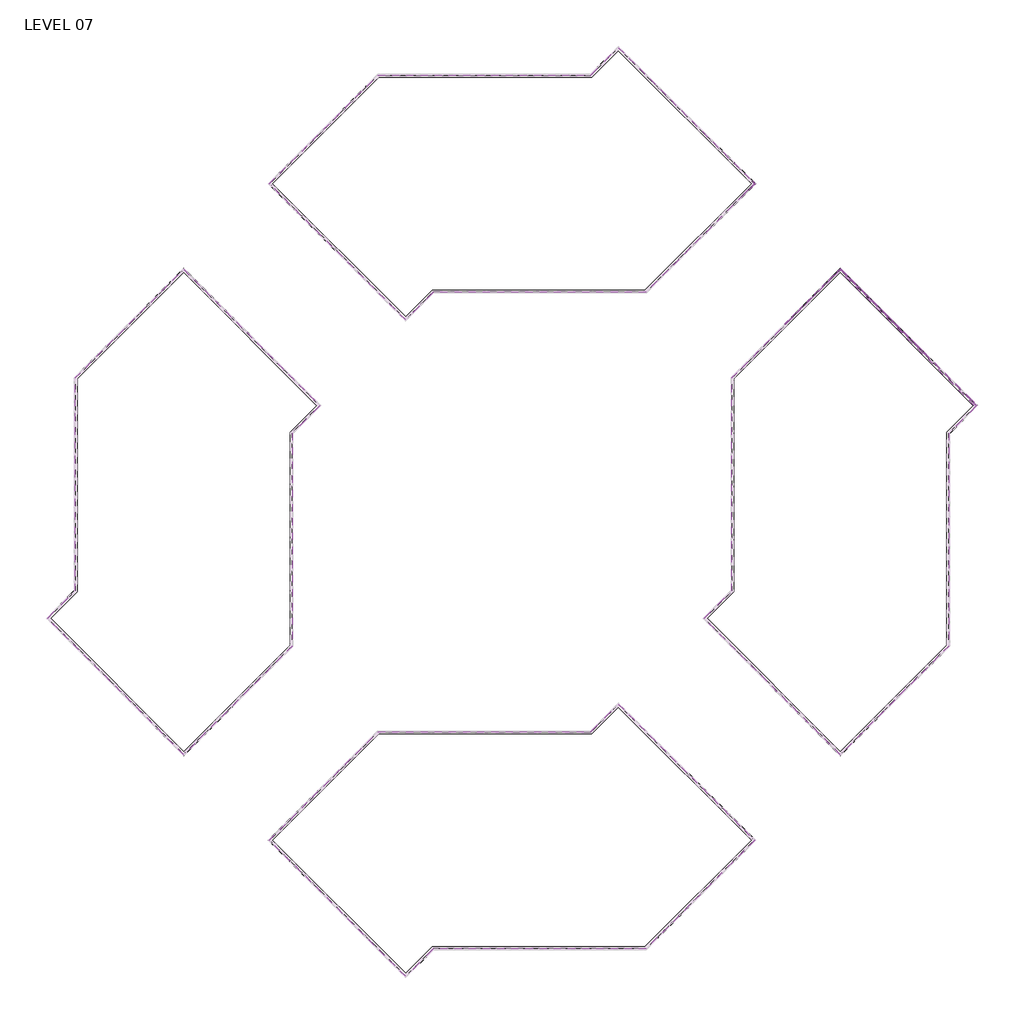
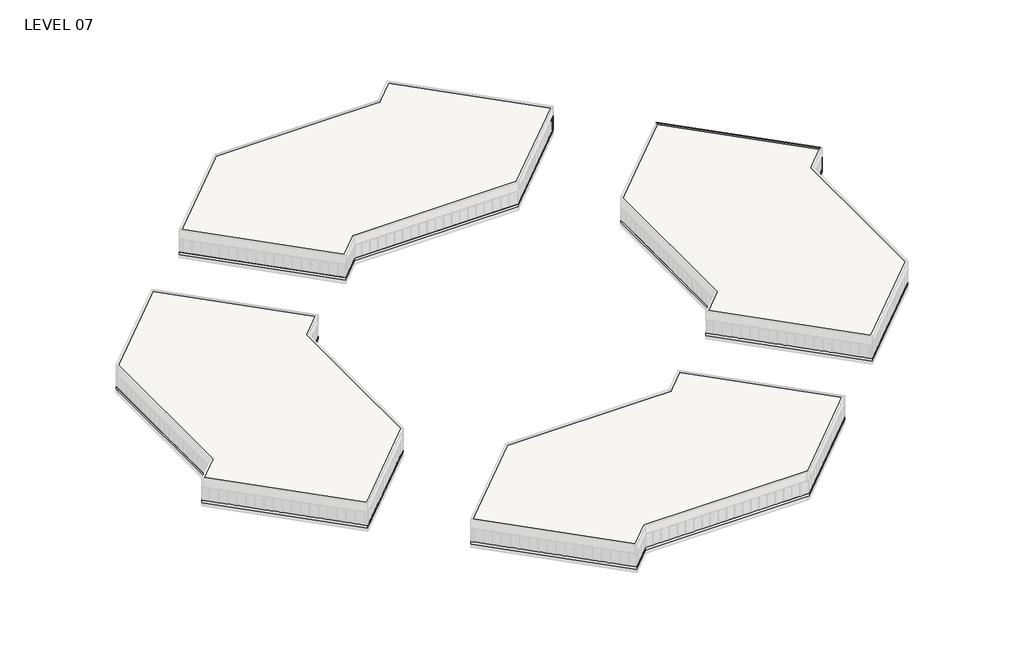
# One storey, part 18 of 18: 75 members, 21 plates, 8 slabs, 2 walls.
"""IFC4 building model written with IfcOpenShell, lengths in millimetres."""

from ifc_helpers import new_model, si_unit, frame, origin, place, context, project, spatial, polyline, outline, extrude, faceted_brep, transform, mapped, element, save
from components import member_5247f267, member_e44af9ab, member_800970d4, member_25b26a38, member_c23f844a, member_53409b32, member_ed9c17d6, member_0b71a88d, plate_6d527a83, plate_67294edd, plate_aaac5d3d, plate_50b9cd61, plate_048e4634, plate_e0fd5134, plate_62af1d3c, plate_dca6a18a

model = new_model("IFC4")

# Units and contexts
model_context = context("Model", 3, world=origin())
ifc_project = project(units=[si_unit("LENGTHUNIT", "METRE", prefix="MILLI")], contexts=[model_context])

# Site, building, storey
site = spatial("IfcSite", under=ifc_project)
building = spatial("IfcBuilding", under=site)
storey = spatial("IfcBuildingStorey", under=building, Name="LEVEL 07", Elevation=23368.0)

# Members
placement = place(None, origin())
member_shape = member_5247f267(model_context)
element("IfcMember", 1, ObjectType="Rectangular Mullion : 2\" x 4.5\" rectangular", at=placement, inside=storey, context=model_context, shape_type="MappedRepresentation", body=[
    mapped(member_shape, transform((64227.3404937, 104942.2679469, 23368.0), x_axis=(0.0, 0.0, -1.0), y_axis=(0.7071067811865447, 0.7071067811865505, 0.0), z_axis=(0.7071067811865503, -0.7071067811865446, 0.0))),
])
element("IfcMember", 2, ObjectType="Rectangular Mullion : 2\" x 4.5\" rectangular", at=placement, inside=storey, context=model_context, shape_type="MappedRepresentation", body=[
    mapped(member_shape, transform((64227.3404937, 104141.486663, 25958.8), x_axis=(0.0, 0.0, 1.0), y_axis=(0.7071067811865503, -0.7071067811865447, 0.0), z_axis=(0.7071067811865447, 0.7071067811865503, 0.0))),
])
member_2_shape = member_e44af9ab(model_context)
element("IfcMember", 3, ObjectType="Rectangular Mullion : 2\" x 4.5\" rectangular", at=placement, inside=storey, context=model_context, shape_type="MappedRepresentation", body=[
    mapped(member_2_shape, transform((64245.3010059, 104159.4471752, 23368.0), x_axis=(0.7071067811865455, 0.7071067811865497, 0.0), y_axis=(0.7071067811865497, -0.7071067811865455, 0.0), z_axis=(0.0, 0.0, -1.0))),
])
element("IfcMember", 4, ObjectType="Rectangular Mullion : 2\" x 4.5\" rectangular", at=placement, inside=storey, context=model_context, shape_type="MappedRepresentation", body=[
    mapped(member_2_shape, transform((64245.3010059, 104924.3074346, 23368.0), x_axis=(-0.7071067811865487, 0.7071067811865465, 0.0), y_axis=(0.7071067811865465, 0.7071067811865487, 0.0), z_axis=(0.0, 0.0, -1.0))),
])
member_3_shape = member_800970d4(model_context)
element("IfcMember", 5, ObjectType="Rectangular Mullion : 2\" x 4.5\" rectangular", at=placement, inside=storey, context=model_context, shape_type="MappedRepresentation", body=[
    mapped(member_3_shape, transform((64627.7311356, 104541.8773049, 23368.0), x_axis=(0.7071067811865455, 0.7071067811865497, 0.0), y_axis=(0.7071067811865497, -0.7071067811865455, 0.0), z_axis=(0.0, 0.0, -1.0))),
])
element("IfcMember", 6, ObjectType="Rectangular Mullion : 2\" x 4.5\" rectangular", at=placement, inside=storey, context=model_context, shape_type="MappedRepresentation", body=[
    mapped(member_3_shape, transform((64627.7311356, 104541.8773049, 25958.8), x_axis=(0.7071067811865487, -0.7071067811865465, 0.0), y_axis=(0.7071067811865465, 0.7071067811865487, 0.0), z_axis=(0.0, 0.0, 1.0))),
])
member_4_shape = member_25b26a38(model_context)
element("IfcMember", 7, ObjectType="Rectangular Mullion : 2\" x 4.5\" rectangular", at=placement, inside=storey, context=model_context, shape_type="MappedRepresentation", body=[
    mapped(member_4_shape, transform((64263.2615182, 104177.4076875, 23368.0), x_axis=(0.0, 0.0, -1.0), y_axis=(0.7071067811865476, -0.7071067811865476, 0.0), z_axis=(-0.7071067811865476, -0.7071067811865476, 0.0))),
])
element("IfcMember", 8, ObjectType="Rectangular Mullion : 2\" x 4.5\" rectangular", at=placement, inside=storey, context=model_context, shape_type="MappedRepresentation", body=[
    mapped(member_4_shape, transform((64591.8101111, 104577.7983294, 23368.0), x_axis=(0.0, 0.0, -1.0), y_axis=(0.7071067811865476, 0.7071067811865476, 0.0), z_axis=(0.7071067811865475, -0.7071067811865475, 0.0))),
])
element("IfcMember", 9, ObjectType="Rectangular Mullion : 2\" x 4.5\" rectangular", at=placement, inside=storey, context=model_context, shape_type="MappedRepresentation", body=[
    mapped(member_4_shape, transform((64591.8101111, 104505.9562804, 25958.8), x_axis=(0.0, 0.0, 1.0), y_axis=(0.7071067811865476, -0.7071067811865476, 0.0), z_axis=(0.7071067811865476, 0.7071067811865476, 0.0))),
])
element("IfcMember", 10, ObjectType="Rectangular Mullion : 2\" x 4.5\" rectangular", at=placement, inside=storey, context=model_context, shape_type="MappedRepresentation", body=[
    mapped(member_4_shape, transform((64263.2615182, 104906.3469224, 25958.8), x_axis=(0.0, 0.0, 1.0), y_axis=(0.7071067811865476, 0.7071067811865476, 0.0), z_axis=(-0.7071067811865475, 0.7071067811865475, 0.0))),
])
element("IfcMember", 11, ObjectType="Rectangular Mullion : 2\" x 4.5\" rectangular", at=placement, inside=storey, context=model_context, shape_type="MappedRepresentation", body=[
    mapped(member_shape, transform((69983.7142707, 85453.6032785, 25958.8), x_axis=(0.0, 0.0, 1.0), y_axis=(0.7071067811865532, -0.7071067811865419, 0.0), z_axis=(0.7071067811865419, 0.7071067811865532, 0.0))),
])
element("IfcMember", 12, ObjectType="Rectangular Mullion : 2\" x 4.5\" rectangular", at=placement, inside=storey, context=model_context, shape_type="MappedRepresentation", body=[
    mapped(member_shape, transform((71061.3302035, 86531.2192113, 25958.8), x_axis=(0.0, 0.0, 1.0), y_axis=(0.7071067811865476, -0.7071067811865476, 0.0), z_axis=(0.7071067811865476, 0.7071067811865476, 0.0))),
])
element("IfcMember", 13, ObjectType="Rectangular Mullion : 2\" x 4.5\" rectangular", at=placement, inside=storey, context=model_context, shape_type="MappedRepresentation", body=[
    mapped(member_shape, transform((73216.5768709, 88686.4658786, 25958.8), x_axis=(0.0, 0.0, 1.0), y_axis=(0.7071067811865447, -0.7071067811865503, 0.0), z_axis=(0.7071067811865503, 0.7071067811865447, 0.0))),
])
element("IfcMember", 14, ObjectType="Rectangular Mullion : 2\" x 4.5\" rectangular", at=placement, inside=storey, context=model_context, shape_type="MappedRepresentation", body=[
    mapped(member_shape, transform((72138.9535372, 87608.842545, 25958.8), x_axis=(0.0, 0.0, 1.0), y_axis=(0.7071067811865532, -0.7071067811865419, 0.0), z_axis=(0.7071067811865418, 0.7071067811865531, 0.0))),
])
element("IfcMember", 15, ObjectType="Rectangular Mullion : 2\" x 4.5\" rectangular", at=placement, inside=storey, context=model_context, shape_type="MappedRepresentation", body=[
    mapped(member_shape, transform((74294.2076054, 89764.0966131, 25958.8), x_axis=(0.0, 0.0, 1.0), y_axis=(0.7071067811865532, -0.7071067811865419, 0.0), z_axis=(0.7071067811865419, 0.7071067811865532, 0.0))),
])
element("IfcMember", 16, ObjectType="Rectangular Mullion : 2\" x 4.5\" rectangular", at=placement, inside=storey, context=model_context, shape_type="MappedRepresentation", body=[
    mapped(member_shape, transform((75371.8383399, 90841.7273477, 25958.8), x_axis=(0.0, 0.0, 1.0), y_axis=(0.7071067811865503, -0.7071067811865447, 0.0), z_axis=(0.7071067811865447, 0.7071067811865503, 0.0))),
])
element("IfcMember", 17, ObjectType="Rectangular Mullion : 2\" x 4.5\" rectangular", at=placement, inside=storey, context=model_context, shape_type="MappedRepresentation", body=[
    mapped(member_shape, transform((76449.4690745, 91919.3580822, 25958.8), x_axis=(0.0, 0.0, 1.0), y_axis=(0.7071067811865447, -0.7071067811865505, 0.0), z_axis=(0.7071067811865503, 0.7071067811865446, 0.0))),
])
element("IfcMember", 18, ObjectType="Rectangular Mullion : 2\" x 4.5\" rectangular", at=placement, inside=storey, context=model_context, shape_type="MappedRepresentation", body=[
    mapped(member_shape, transform((79369.5908029, 89800.0176376, 25958.8), x_axis=(0.0, 0.0, 1.0), y_axis=(-0.7071067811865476, -0.7071067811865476, 0.0), z_axis=(0.7071067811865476, -0.7071067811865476, 0.0))),
])
element("IfcMember", 19, ObjectType="Rectangular Mullion : 2\" x 4.5\" rectangular", at=placement, inside=storey, context=model_context, shape_type="MappedRepresentation", body=[
    mapped(member_shape, transform((80447.2215374, 88722.3869031, 25958.8), x_axis=(0.0, 0.0, 1.0), y_axis=(-0.7071067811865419, -0.7071067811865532, 0.0), z_axis=(0.7071067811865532, -0.7071067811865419, 0.0))),
])
element("IfcMember", 20, ObjectType="Rectangular Mullion : 2\" x 4.5\" rectangular", at=placement, inside=storey, context=model_context, shape_type="MappedRepresentation", body=[
    mapped(member_shape, transform((82602.447272, 86567.1611686, 25958.8), x_axis=(0.0, 0.0, 1.0), y_axis=(-0.7071067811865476, -0.7071067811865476, 0.0), z_axis=(0.7071067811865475, -0.7071067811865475, 0.0))),
])
element("IfcMember", 21, ObjectType="Rectangular Mullion : 2\" x 4.5\" rectangular", at=placement, inside=storey, context=model_context, shape_type="MappedRepresentation", body=[
    mapped(member_shape, transform((83680.042272, 85489.5661686, 25958.8), x_axis=(0.0, 0.0, 1.0), y_axis=(-0.7071067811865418, -0.7071067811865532, 0.0), z_axis=(0.7071067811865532, -0.7071067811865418, 0.0))),
])
element("IfcMember", 22, ObjectType="Rectangular Mullion : 2\" x 4.5\" rectangular", at=placement, inside=storey, context=model_context, shape_type="MappedRepresentation", body=[
    mapped(member_shape, transform((84757.637272, 84411.9711686, 25958.8), x_axis=(0.0, 0.0, 1.0), y_axis=(-0.7071067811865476, -0.7071067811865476, 0.0), z_axis=(0.7071067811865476, -0.7071067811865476, 0.0))),
])
element("IfcMember", 23, ObjectType="Rectangular Mullion : 2\" x 4.5\" rectangular", at=placement, inside=storey, context=model_context, shape_type="MappedRepresentation", body=[
    mapped(member_shape, transform((85835.232272, 83334.3761686, 25958.8), x_axis=(0.0, 0.0, 1.0), y_axis=(-0.7071067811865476, -0.7071067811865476, 0.0), z_axis=(0.7071067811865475, -0.7071067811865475, 0.0))),
])
element("IfcMember", 24, ObjectType="Rectangular Mullion : 2\" x 4.5\" rectangular", at=placement, inside=storey, context=model_context, shape_type="MappedRepresentation", body=[
    mapped(member_shape, transform((78291.9600684, 90877.6483722, 25958.8), x_axis=(0.0, 0.0, 1.0), y_axis=(-0.7071067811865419, -0.7071067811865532, 0.0), z_axis=(0.7071067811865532, -0.7071067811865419, 0.0))),
])
element("IfcMember", 25, ObjectType="Rectangular Mullion : 2\" x 4.5\" rectangular", at=placement, inside=storey, context=model_context, shape_type="MappedRepresentation", body=[
    mapped(member_shape, transform((81524.8344047, 87644.7740358, 25958.8), x_axis=(0.0, 0.0, 1.0), y_axis=(-0.7071067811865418, -0.7071067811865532, 0.0), z_axis=(0.7071067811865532, -0.7071067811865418, 0.0))),
])
element("IfcMember", 26, ObjectType="Rectangular Mullion : 2\" x 4.5\" rectangular", at=placement, inside=storey, context=model_context, shape_type="MappedRepresentation", body=[
    mapped(member_shape, transform((70019.6352952, 85489.524303, 23368.0), x_axis=(0.0, 0.0, -1.0), y_axis=(0.7071067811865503, -0.7071067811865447, 0.0), z_axis=(-0.7071067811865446, -0.7071067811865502, 0.0))),
])
element("IfcMember", 27, ObjectType="Rectangular Mullion : 2\" x 4.5\" rectangular", at=placement, inside=storey, context=model_context, shape_type="MappedRepresentation", body=[
    mapped(member_shape, transform((71097.251228, 86567.1402358, 23368.0), x_axis=(0.0, 0.0, -1.0), y_axis=(0.7071067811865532, -0.7071067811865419, 0.0), z_axis=(-0.7071067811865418, -0.7071067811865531, 0.0))),
])
element("IfcMember", 28, ObjectType="Rectangular Mullion : 2\" x 4.5\" rectangular", at=placement, inside=storey, context=model_context, shape_type="MappedRepresentation", body=[
    mapped(member_shape, transform((73252.4978954, 88722.3869031, 23368.0), x_axis=(0.0, 0.0, -1.0), y_axis=(0.7071067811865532, -0.7071067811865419, 0.0), z_axis=(-0.7071067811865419, -0.7071067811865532, 0.0))),
])
element("IfcMember", 29, ObjectType="Rectangular Mullion : 2\" x 4.5\" rectangular", at=placement, inside=storey, context=model_context, shape_type="MappedRepresentation", body=[
    mapped(member_shape, transform((72174.8745617, 87644.7635694, 23368.0), x_axis=(0.0, 0.0, -1.0), y_axis=(0.7071067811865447, -0.7071067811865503, 0.0), z_axis=(-0.7071067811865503, -0.7071067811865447, 0.0))),
])
element("IfcMember", 30, ObjectType="Rectangular Mullion : 2\" x 4.5\" rectangular", at=placement, inside=storey, context=model_context, shape_type="MappedRepresentation", body=[
    mapped(member_shape, transform((74330.1286299, 89800.0176376, 23368.0), x_axis=(0.0, 0.0, -1.0), y_axis=(0.7071067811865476, -0.7071067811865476, 0.0), z_axis=(-0.7071067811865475, -0.7071067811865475, 0.0))),
])
element("IfcMember", 31, ObjectType="Rectangular Mullion : 2\" x 4.5\" rectangular", at=placement, inside=storey, context=model_context, shape_type="MappedRepresentation", body=[
    mapped(member_shape, transform((75407.7593644, 90877.6483722, 23368.0), x_axis=(0.0, 0.0, -1.0), y_axis=(0.7071067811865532, -0.7071067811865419, 0.0), z_axis=(-0.7071067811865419, -0.7071067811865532, 0.0))),
])
element("IfcMember", 32, ObjectType="Rectangular Mullion : 2\" x 4.5\" rectangular", at=placement, inside=storey, context=model_context, shape_type="MappedRepresentation", body=[
    mapped(member_shape, transform((79405.5118274, 89764.0966131, 23368.0), x_axis=(0.0, 0.0, -1.0), y_axis=(-0.7071067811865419, -0.7071067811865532, 0.0), z_axis=(-0.7071067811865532, 0.7071067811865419, 0.0))),
])
element("IfcMember", 33, ObjectType="Rectangular Mullion : 2\" x 4.5\" rectangular", at=placement, inside=storey, context=model_context, shape_type="MappedRepresentation", body=[
    mapped(member_shape, transform((80483.1425619, 88686.4658786, 23368.0), x_axis=(0.0, 0.0, -1.0), y_axis=(-0.7071067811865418, -0.7071067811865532, 0.0), z_axis=(-0.7071067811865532, 0.7071067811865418, 0.0))),
])
element("IfcMember", 34, ObjectType="Rectangular Mullion : 2\" x 4.5\" rectangular", at=placement, inside=storey, context=model_context, shape_type="MappedRepresentation", body=[
    mapped(member_shape, transform((82638.3682965, 86531.2401441, 23368.0), x_axis=(0.0, 0.0, -1.0), y_axis=(-0.7071067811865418, -0.7071067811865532, 0.0), z_axis=(-0.7071067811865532, 0.7071067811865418, 0.0))),
])
element("IfcMember", 35, ObjectType="Rectangular Mullion : 2\" x 4.5\" rectangular", at=placement, inside=storey, context=model_context, shape_type="MappedRepresentation", body=[
    mapped(member_shape, transform((83715.9632965, 85453.6451441, 23368.0), x_axis=(0.0, 0.0, -1.0), y_axis=(-0.7071067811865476, -0.7071067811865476, 0.0), z_axis=(-0.7071067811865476, 0.7071067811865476, 0.0))),
])
element("IfcMember", 36, ObjectType="Rectangular Mullion : 2\" x 4.5\" rectangular", at=placement, inside=storey, context=model_context, shape_type="MappedRepresentation", body=[
    mapped(member_shape, transform((84793.5582965, 84376.0501441, 23368.0), x_axis=(0.0, 0.0, -1.0), y_axis=(-0.7071067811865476, -0.7071067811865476, 0.0), z_axis=(-0.7071067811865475, 0.7071067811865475, 0.0))),
])
element("IfcMember", 37, ObjectType="Rectangular Mullion : 2\" x 4.5\" rectangular", at=placement, inside=storey, context=model_context, shape_type="MappedRepresentation", body=[
    mapped(member_shape, transform((78327.8810929, 90841.7273477, 23368.0), x_axis=(0.0, 0.0, -1.0), y_axis=(-0.7071067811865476, -0.7071067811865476, 0.0), z_axis=(-0.7071067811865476, 0.7071067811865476, 0.0))),
])
element("IfcMember", 38, ObjectType="Rectangular Mullion : 2\" x 4.5\" rectangular", at=placement, inside=storey, context=model_context, shape_type="MappedRepresentation", body=[
    mapped(member_shape, transform((77250.2503583, 91919.3580822, 23368.0), x_axis=(0.0, 0.0, -1.0), y_axis=(-0.7071067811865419, -0.7071067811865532, 0.0), z_axis=(-0.7071067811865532, 0.7071067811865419, 0.0))),
])
element("IfcMember", 39, ObjectType="Rectangular Mullion : 2\" x 4.5\" rectangular", at=placement, inside=storey, context=model_context, shape_type="MappedRepresentation", body=[
    mapped(member_shape, transform((81560.7554292, 87608.8530114, 23368.0), x_axis=(0.0, 0.0, -1.0), y_axis=(-0.7071067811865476, -0.7071067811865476, 0.0), z_axis=(-0.7071067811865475, 0.7071067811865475, 0.0))),
])
element("IfcMember", 40, ObjectType="Rectangular Mullion : 2\" x 4.5\" rectangular", at=placement, inside=storey, context=model_context, shape_type="MappedRepresentation", body=[
    mapped(member_2_shape, transform((70001.674783, 85471.5637907, 23368.0), x_axis=(0.7071067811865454, 0.7071067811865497, 0.0), y_axis=(0.7071067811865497, -0.7071067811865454, 0.0), z_axis=(0.0, 0.0, -1.0))),
])
element("IfcMember", 41, ObjectType="Rectangular Mullion : 2\" x 4.5\" rectangular", at=placement, inside=storey, context=model_context, shape_type="MappedRepresentation", body=[
    mapped(member_2_shape, transform((71079.2907158, 86549.1797235, 23368.0), x_axis=(0.7071067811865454, 0.7071067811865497, 0.0), y_axis=(0.7071067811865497, -0.7071067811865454, 0.0), z_axis=(0.0, 0.0, -1.0))),
])
element("IfcMember", 42, ObjectType="Rectangular Mullion : 2\" x 4.5\" rectangular", at=placement, inside=storey, context=model_context, shape_type="MappedRepresentation", body=[
    mapped(member_2_shape, transform((73234.5373831, 88704.4263909, 23368.0), x_axis=(0.7071067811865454, 0.7071067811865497, 0.0), y_axis=(0.7071067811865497, -0.7071067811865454, 0.0), z_axis=(0.0, 0.0, -1.0))),
])
element("IfcMember", 43, ObjectType="Rectangular Mullion : 2\" x 4.5\" rectangular", at=placement, inside=storey, context=model_context, shape_type="MappedRepresentation", body=[
    mapped(member_2_shape, transform((72156.9140495, 87626.8030572, 23368.0), x_axis=(0.7071067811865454, 0.7071067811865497, 0.0), y_axis=(0.7071067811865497, -0.7071067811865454, 0.0), z_axis=(0.0, 0.0, -1.0))),
])
element("IfcMember", 44, ObjectType="Rectangular Mullion : 2\" x 4.5\" rectangular", at=placement, inside=storey, context=model_context, shape_type="MappedRepresentation", body=[
    mapped(member_2_shape, transform((74312.1681176, 89782.0571254, 23368.0), x_axis=(0.7071067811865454, 0.7071067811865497, 0.0), y_axis=(0.7071067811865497, -0.7071067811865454, 0.0), z_axis=(0.0, 0.0, -1.0))),
])
element("IfcMember", 45, ObjectType="Rectangular Mullion : 2\" x 4.5\" rectangular", at=placement, inside=storey, context=model_context, shape_type="MappedRepresentation", body=[
    mapped(member_2_shape, transform((75389.7988522, 90859.6878599, 23368.0), x_axis=(0.7071067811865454, 0.7071067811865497, 0.0), y_axis=(0.7071067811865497, -0.7071067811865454, 0.0), z_axis=(0.0, 0.0, -1.0))),
])
element("IfcMember", 46, ObjectType="Rectangular Mullion : 2\" x 4.5\" rectangular", at=placement, inside=storey, context=model_context, shape_type="MappedRepresentation", body=[
    mapped(member_2_shape, transform((76467.4295867, 91937.3185944, 23368.0), x_axis=(0.7071067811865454, 0.7071067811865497, 0.0), y_axis=(0.7071067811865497, -0.7071067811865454, 0.0), z_axis=(0.0, 0.0, -1.0))),
])
element("IfcMember", 47, ObjectType="Rectangular Mullion : 2\" x 4.5\" rectangular", at=placement, inside=storey, context=model_context, shape_type="MappedRepresentation", body=[
    mapped(member_2_shape, transform((79387.5513152, 89782.0571254, 23368.0), x_axis=(0.7071067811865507, -0.7071067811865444, 0.0), y_axis=(-0.7071067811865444, -0.7071067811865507, 0.0), z_axis=(0.0, 0.0, -1.0))),
])
element("IfcMember", 48, ObjectType="Rectangular Mullion : 2\" x 4.5\" rectangular", at=placement, inside=storey, context=model_context, shape_type="MappedRepresentation", body=[
    mapped(member_2_shape, transform((80465.1820497, 88704.4263909, 23368.0), x_axis=(0.7071067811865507, -0.7071067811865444, 0.0), y_axis=(-0.7071067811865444, -0.7071067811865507, 0.0), z_axis=(0.0, 0.0, -1.0))),
])
element("IfcMember", 49, ObjectType="Rectangular Mullion : 2\" x 4.5\" rectangular", at=placement, inside=storey, context=model_context, shape_type="MappedRepresentation", body=[
    mapped(member_2_shape, transform((82620.4077842, 86549.2006563, 23368.0), x_axis=(0.7071067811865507, -0.7071067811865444, 0.0), y_axis=(-0.7071067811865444, -0.7071067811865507, 0.0), z_axis=(0.0, 0.0, -1.0))),
])
element("IfcMember", 50, ObjectType="Rectangular Mullion : 2\" x 4.5\" rectangular", at=placement, inside=storey, context=model_context, shape_type="MappedRepresentation", body=[
    mapped(member_2_shape, transform((83698.0027842, 85471.6056563, 23368.0), x_axis=(0.7071067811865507, -0.7071067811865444, 0.0), y_axis=(-0.7071067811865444, -0.7071067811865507, 0.0), z_axis=(0.0, 0.0, -1.0))),
])
element("IfcMember", 51, ObjectType="Rectangular Mullion : 2\" x 4.5\" rectangular", at=placement, inside=storey, context=model_context, shape_type="MappedRepresentation", body=[
    mapped(member_2_shape, transform((84775.5977842, 84394.0106563, 23368.0), x_axis=(0.7071067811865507, -0.7071067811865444, 0.0), y_axis=(-0.7071067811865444, -0.7071067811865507, 0.0), z_axis=(0.0, 0.0, -1.0))),
])
element("IfcMember", 52, ObjectType="Rectangular Mullion : 2\" x 4.5\" rectangular", at=placement, inside=storey, context=model_context, shape_type="MappedRepresentation", body=[
    mapped(member_2_shape, transform((85853.1927842, 83316.4156563, 23368.0), x_axis=(0.7071067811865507, -0.7071067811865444, 0.0), y_axis=(-0.7071067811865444, -0.7071067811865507, 0.0), z_axis=(0.0, 0.0, -1.0))),
])
element("IfcMember", 53, ObjectType="Rectangular Mullion : 2\" x 4.5\" rectangular", at=placement, inside=storey, context=model_context, shape_type="MappedRepresentation", body=[
    mapped(member_2_shape, transform((88002.431194, 81167.1772465, 23368.0), x_axis=(0.7071067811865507, -0.7071067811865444, 0.0), y_axis=(-0.7071067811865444, -0.7071067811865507, 0.0), z_axis=(0.0, 0.0, -1.0))),
])
element("IfcMember", 54, ObjectType="Rectangular Mullion : 2\" x 4.5\" rectangular", at=placement, inside=storey, context=model_context, shape_type="MappedRepresentation", body=[
    mapped(member_2_shape, transform((89074.0746038, 80095.5338367, 23368.0), x_axis=(0.7071067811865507, -0.7071067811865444, 0.0), y_axis=(-0.7071067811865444, -0.7071067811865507, 0.0), z_axis=(0.0, 0.0, -1.0))),
])
element("IfcMember", 55, ObjectType="Rectangular Mullion : 2\" x 4.5\" rectangular", at=placement, inside=storey, context=model_context, shape_type="MappedRepresentation", body=[
    mapped(member_2_shape, transform((78309.9205806, 90859.6878599, 23368.0), x_axis=(0.7071067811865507, -0.7071067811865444, 0.0), y_axis=(-0.7071067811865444, -0.7071067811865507, 0.0), z_axis=(0.0, 0.0, -1.0))),
])
element("IfcMember", 56, ObjectType="Rectangular Mullion : 2\" x 4.5\" rectangular", at=placement, inside=storey, context=model_context, shape_type="MappedRepresentation", body=[
    mapped(member_2_shape, transform((77232.2898461, 91937.3185944, 23368.0), x_axis=(0.7071067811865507, -0.7071067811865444, 0.0), y_axis=(-0.7071067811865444, -0.7071067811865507, 0.0), z_axis=(0.0, 0.0, -1.0))),
])
element("IfcMember", 57, ObjectType="Rectangular Mullion : 2\" x 4.5\" rectangular", at=placement, inside=storey, context=model_context, shape_type="MappedRepresentation", body=[
    mapped(member_2_shape, transform((81542.794917, 87626.8135236, 23368.0), x_axis=(0.7071067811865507, -0.7071067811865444, 0.0), y_axis=(-0.7071067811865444, -0.7071067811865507, 0.0), z_axis=(0.0, 0.0, -1.0))),
])
element("IfcMember", 58, ObjectType="Rectangular Mullion : 2\" x 4.5\" rectangular", at=placement, inside=storey, context=model_context, shape_type="MappedRepresentation", body=[
    mapped(member_2_shape, transform((86927.8119891, 82241.7964514, 23368.0), x_axis=(0.7071067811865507, -0.7071067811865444, 0.0), y_axis=(-0.7071067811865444, -0.7071067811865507, 0.0), z_axis=(0.0, 0.0, -1.0))),
])
element("IfcMember", 59, ObjectType="Rectangular Mullion : 2\" x 4.5\" rectangular", at=placement, inside=storey, context=model_context, shape_type="MappedRepresentation", body=[
    mapped(member_3_shape, transform((76849.8597164, 92319.7487241, 23368.0), x_axis=(0.7071067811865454, 0.7071067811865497, 0.0), y_axis=(0.7071067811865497, -0.7071067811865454, 0.0), z_axis=(0.0, 0.0, -1.0))),
])
element("IfcMember", 60, ObjectType="Rectangular Mullion : 2\" x 4.5\" rectangular", at=placement, inside=storey, context=model_context, shape_type="MappedRepresentation", body=[
    mapped(member_3_shape, transform((96411.640852, 72757.9675885, 23368.0), x_axis=(0.7071067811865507, -0.7071067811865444, 0.0), y_axis=(-0.7071067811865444, -0.7071067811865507, 0.0), z_axis=(0.0, 0.0, -1.0))),
])
element("IfcMember", 61, ObjectType="Rectangular Mullion : 2\" x 4.5\" rectangular", at=placement, inside=storey, context=model_context, shape_type="MappedRepresentation", body=[
    mapped(member_3_shape, transform((76849.8597164, 92319.7487241, 25958.8), x_axis=(-0.7071067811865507, 0.7071067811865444, 0.0), y_axis=(-0.7071067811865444, -0.7071067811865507, 0.0), z_axis=(0.0, 0.0, 1.0))),
])
element("IfcMember", 62, ObjectType="Rectangular Mullion : 2\" x 4.5\" rectangular", at=placement, inside=storey, context=model_context, shape_type="MappedRepresentation", body=[
    mapped(member_3_shape, transform((96411.640852, 72757.9675885, 25958.8), x_axis=(0.7071067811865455, 0.7071067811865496, 0.0), y_axis=(-0.7071067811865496, 0.7071067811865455, 0.0), z_axis=(0.0, 0.0, 1.0))),
])
member_5_shape = member_c23f844a(model_context)
element("IfcMember", 63, ObjectType="Rectangular Mullion : 2\" x 4.5\" rectangular", at=placement, inside=storey, context=model_context, shape_type="MappedRepresentation", body=[
    mapped(member_5_shape, transform((89056.1140916, 80113.494349, 25958.8), x_axis=(0.0, 0.0, 1.0), y_axis=(-0.7071067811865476, -0.7071067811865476, 0.0), z_axis=(0.7071067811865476, -0.7071067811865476, 0.0))),
])
element("IfcMember", 64, ObjectType="Rectangular Mullion : 2\" x 4.5\" rectangular", at=placement, inside=storey, context=model_context, shape_type="MappedRepresentation", body=[
    mapped(member_5_shape, transform((88020.3917063, 81149.2167343, 23368.0), x_axis=(0.0, 0.0, -1.0), y_axis=(-0.7071067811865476, -0.7071067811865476, 0.0), z_axis=(-0.7071067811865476, 0.7071067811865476, 0.0))),
])
element("IfcMember", 65, ObjectType="Rectangular Mullion : 2\" x 4.5\" rectangular", at=placement, inside=storey, context=model_context, shape_type="MappedRepresentation", body=[
    mapped(member_5_shape, transform((89092.035116, 80077.5733245, 23368.0), x_axis=(0.0, 0.0, -1.0), y_axis=(-0.7071067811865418, -0.7071067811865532, 0.0), z_axis=(-0.7071067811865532, 0.7071067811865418, 0.0))),
])
element("IfcMember", 66, ObjectType="Rectangular Mullion : 2\" x 4.5\" rectangular", at=placement, inside=storey, context=model_context, shape_type="MappedRepresentation", body=[
    mapped(member_4_shape, transform((76813.9386919, 92283.8276997, 25958.8), x_axis=(0.0, 0.0, 1.0), y_axis=(0.7071067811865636, -0.7071067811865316, 0.0), z_axis=(0.7071067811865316, 0.7071067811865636, 0.0))),
])
element("IfcMember", 67, ObjectType="Rectangular Mullion : 2\" x 4.5\" rectangular", at=placement, inside=storey, context=model_context, shape_type="MappedRepresentation", body=[
    mapped(member_4_shape, transform((77214.3293339, 91955.2791067, 25958.8), x_axis=(0.0, 0.0, 1.0), y_axis=(-0.7071067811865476, -0.7071067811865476, 0.0), z_axis=(0.7071067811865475, -0.7071067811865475, 0.0))),
])
element("IfcMember", 68, ObjectType="Rectangular Mullion : 2\" x 4.5\" rectangular", at=placement, inside=storey, context=model_context, shape_type="MappedRepresentation", body=[
    mapped(member_4_shape, transform((76485.3900989, 91955.2791067, 23368.0), x_axis=(0.0, 0.0, -1.0), y_axis=(0.7071067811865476, -0.7071067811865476, 0.0), z_axis=(-0.7071067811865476, -0.7071067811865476, 0.0))),
])
element("IfcMember", 69, ObjectType="Rectangular Mullion : 2\" x 4.5\" rectangular", at=placement, inside=storey, context=model_context, shape_type="MappedRepresentation", body=[
    mapped(member_4_shape, transform((76885.7807409, 92283.8276997, 23368.0), x_axis=(0.0, 0.0, -1.0), y_axis=(-0.7071067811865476, -0.7071067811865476, 0.0), z_axis=(-0.7071067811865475, 0.7071067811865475, 0.0))),
])
member_6_shape = member_53409b32(model_context)
element("IfcMember", 70, ObjectType="Rectangular Mullion : 2\" x 4.5\" rectangular", at=placement, inside=storey, context=model_context, shape_type="MappedRepresentation", body=[
    mapped(member_6_shape, transform((96375.7198275, 72793.888613, 25958.8), x_axis=(0.0, 0.0, 1.0), y_axis=(-0.7071067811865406, -0.7071067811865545, 0.0), z_axis=(0.7071067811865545, -0.7071067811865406, 0.0))),
])
member_7_shape = member_ed9c17d6(model_context)
element("IfcMember", 71, ObjectType="Rectangular Mullion : 2\" x 4.5\" rectangular", at=placement, inside=storey, context=model_context, shape_type="MappedRepresentation", body=[
    mapped(member_7_shape, transform((87984.4706818, 81185.1377588, 25958.8), x_axis=(0.0, 0.0, 1.0), y_axis=(-0.7071067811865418, -0.7071067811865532, 0.0), z_axis=(0.7071067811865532, -0.7071067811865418, 0.0))),
])
element("IfcMember", 72, ObjectType="Rectangular Mullion : 2\" x 4.5\" rectangular", at=placement, inside=storey, context=model_context, shape_type="MappedRepresentation", body=[
    mapped(member_7_shape, transform((86909.8514769, 82259.7569637, 25958.8), x_axis=(0.0, 0.0, 1.0), y_axis=(-0.7071067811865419, -0.7071067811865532, 0.0), z_axis=(0.7071067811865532, -0.7071067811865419, 0.0))),
])
element("IfcMember", 73, ObjectType="Rectangular Mullion : 2\" x 4.5\" rectangular", at=placement, inside=storey, context=model_context, shape_type="MappedRepresentation", body=[
    mapped(member_7_shape, transform((85871.1532965, 83298.4551441, 23368.0), x_axis=(0.0, 0.0, -1.0), y_axis=(-0.7071067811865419, -0.7071067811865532, 0.0), z_axis=(-0.7071067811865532, 0.7071067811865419, 0.0))),
])
element("IfcMember", 74, ObjectType="Rectangular Mullion : 2\" x 4.5\" rectangular", at=placement, inside=storey, context=model_context, shape_type="MappedRepresentation", body=[
    mapped(member_7_shape, transform((86945.7725014, 82223.8359392, 23368.0), x_axis=(0.0, 0.0, -1.0), y_axis=(-0.7071067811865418, -0.7071067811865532, 0.0), z_axis=(-0.7071067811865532, 0.7071067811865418, 0.0))),
])
member_8_shape = member_0b71a88d(model_context)
element("IfcMember", 75, ObjectType="Rectangular Mullion : 2\" x 4.5\" rectangular", at=placement, inside=storey, context=model_context, shape_type="MappedRepresentation", body=[
    mapped(member_8_shape, transform((96375.7198275, 72722.046564, 23368.0), x_axis=(0.0, 0.0, -1.0), y_axis=(-0.7071067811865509, 0.7071067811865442, 0.0), z_axis=(0.7071067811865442, 0.7071067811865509, 0.0))),
])

# Plates
plate_shape = plate_6d527a83(model_context)
element("IfcPlate", 76, ObjectType="System Panel : 1/4\" Glass", at=placement, inside=storey, context=model_context, shape_type="MappedRepresentation", body=[
    mapped(plate_shape, transform((64427.5358147, 104341.681984, 23418.8), x_axis=(0.7071067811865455, 0.7071067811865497, 0.0), y_axis=(-0.7071067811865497, 0.7071067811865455, 0.0), z_axis=(0.0, 0.0, 1.0))),
])
element("IfcPlate", 77, ObjectType="System Panel : 1/4\" Glass", at=placement, inside=storey, context=model_context, shape_type="MappedRepresentation", body=[
    mapped(plate_shape, transform((64427.5358147, 104742.0726259, 23418.8), x_axis=(-0.7071067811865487, 0.7071067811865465, 0.0), y_axis=(-0.7071067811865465, -0.7071067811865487, 0.0), z_axis=(0.0, 0.0, 1.0))),
])
plate_2_shape = plate_67294edd(model_context)
element("IfcPlate", 78, ObjectType="System Panel : 1/4\" Glass", at=placement, inside=storey, context=model_context, shape_type="MappedRepresentation", body=[
    mapped(plate_2_shape, transform((73773.3527504, 89243.2417581, 23418.8), x_axis=(0.7071067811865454, 0.7071067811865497, 0.0), y_axis=(-0.7071067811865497, 0.7071067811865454, 0.0), z_axis=(0.0, 0.0, 1.0))),
])
element("IfcPlate", 79, ObjectType="System Panel : 1/4\" Glass", at=placement, inside=storey, context=model_context, shape_type="MappedRepresentation", body=[
    mapped(plate_2_shape, transform((74850.9834849, 90320.8724927, 23418.8), x_axis=(0.7071067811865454, 0.7071067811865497, 0.0), y_axis=(-0.7071067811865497, 0.7071067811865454, 0.0), z_axis=(0.0, 0.0, 1.0))),
])
element("IfcPlate", 80, ObjectType="System Panel : 1/4\" Glass", at=placement, inside=storey, context=model_context, shape_type="MappedRepresentation", body=[
    mapped(plate_2_shape, transform((75928.6142194, 91398.5032272, 23418.8), x_axis=(0.7071067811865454, 0.7071067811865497, 0.0), y_axis=(-0.7071067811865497, 0.7071067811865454, 0.0), z_axis=(0.0, 0.0, 1.0))),
])
element("IfcPlate", 81, ObjectType="System Panel : 1/4\" Glass", at=placement, inside=storey, context=model_context, shape_type="MappedRepresentation", body=[
    mapped(plate_2_shape, transform((79926.3666824, 89243.2417581, 23418.8), x_axis=(0.7071067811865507, -0.7071067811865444, 0.0), y_axis=(0.7071067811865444, 0.7071067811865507, 0.0), z_axis=(0.0, 0.0, 1.0))),
])
element("IfcPlate", 82, ObjectType="System Panel : 1/4\" Glass", at=placement, inside=storey, context=model_context, shape_type="MappedRepresentation", body=[
    mapped(plate_2_shape, transform((78848.7359479, 90320.8724927, 23418.8), x_axis=(0.7071067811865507, -0.7071067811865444, 0.0), y_axis=(0.7071067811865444, 0.7071067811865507, 0.0), z_axis=(0.0, 0.0, 1.0))),
])
element("IfcPlate", 83, ObjectType="System Panel : 1/4\" Glass", at=placement, inside=storey, context=model_context, shape_type="MappedRepresentation", body=[
    mapped(plate_2_shape, transform((77771.1052134, 91398.5032272, 23418.8), x_axis=(0.7071067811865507, -0.7071067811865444, 0.0), y_axis=(0.7071067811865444, 0.7071067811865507, 0.0), z_axis=(0.0, 0.0, 1.0))),
])
plate_3_shape = plate_aaac5d3d(model_context)
element("IfcPlate", 84, ObjectType="System Panel : 1/4\" Glass", at=placement, inside=storey, context=model_context, shape_type="MappedRepresentation", body=[
    mapped(plate_3_shape, transform((70540.4827494, 86010.3717571, 23418.8), x_axis=(0.7071067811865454, 0.7071067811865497, 0.0), y_axis=(-0.7071067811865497, 0.7071067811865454, 0.0), z_axis=(0.0, 0.0, 1.0))),
])
plate_4_shape = plate_50b9cd61(model_context)
element("IfcPlate", 85, ObjectType="System Panel : 1/4\" Glass", at=placement, inside=storey, context=model_context, shape_type="MappedRepresentation", body=[
    mapped(plate_4_shape, transform((88538.2528989, 80631.3555416, 23418.8), x_axis=(0.7071067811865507, -0.7071067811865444, 0.0), y_axis=(0.7071067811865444, 0.7071067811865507, 0.0), z_axis=(0.0, 0.0, 1.0))),
])
plate_5_shape = plate_048e4634(model_context)
element("IfcPlate", 86, ObjectType="System Panel : 1/4\" Glass", at=placement, inside=storey, context=model_context, shape_type="MappedRepresentation", body=[
    mapped(plate_5_shape, transform((83159.2052842, 86010.4031563, 23418.8), x_axis=(0.7071067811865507, -0.7071067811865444, 0.0), y_axis=(0.7071067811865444, 0.7071067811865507, 0.0), z_axis=(0.0, 0.0, 1.0))),
])
element("IfcPlate", 87, ObjectType="System Panel : 1/4\" Glass", at=placement, inside=storey, context=model_context, shape_type="MappedRepresentation", body=[
    mapped(plate_5_shape, transform((84236.8002842, 84932.8081563, 23418.8), x_axis=(0.7071067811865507, -0.7071067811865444, 0.0), y_axis=(0.7071067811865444, 0.7071067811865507, 0.0), z_axis=(0.0, 0.0, 1.0))),
])
element("IfcPlate", 88, ObjectType="System Panel : 1/4\" Glass", at=placement, inside=storey, context=model_context, shape_type="MappedRepresentation", body=[
    mapped(plate_5_shape, transform((85314.3952842, 83855.2131563, 23418.8), x_axis=(0.7071067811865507, -0.7071067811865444, 0.0), y_axis=(0.7071067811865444, 0.7071067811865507, 0.0), z_axis=(0.0, 0.0, 1.0))),
])
plate_6_shape = plate_e0fd5134(model_context)
element("IfcPlate", 89, ObjectType="System Panel : 1/4\" Glass", at=placement, inside=storey, context=model_context, shape_type="MappedRepresentation", body=[
    mapped(plate_6_shape, transform((71618.1023826, 87087.9913904, 23418.8), x_axis=(0.7071067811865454, 0.7071067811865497, 0.0), y_axis=(-0.7071067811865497, 0.7071067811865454, 0.0), z_axis=(0.0, 0.0, 1.0))),
])
element("IfcPlate", 90, ObjectType="System Panel : 1/4\" Glass", at=placement, inside=storey, context=model_context, shape_type="MappedRepresentation", body=[
    mapped(plate_6_shape, transform((72695.7257163, 88165.614724, 23418.8), x_axis=(0.7071067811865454, 0.7071067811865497, 0.0), y_axis=(-0.7071067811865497, 0.7071067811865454, 0.0), z_axis=(0.0, 0.0, 1.0))),
])
element("IfcPlate", 91, ObjectType="System Panel : 1/4\" Glass", at=placement, inside=storey, context=model_context, shape_type="MappedRepresentation", body=[
    mapped(plate_shape, transform((76649.6643954, 92119.5534032, 23418.8), x_axis=(0.7071067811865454, 0.7071067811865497, 0.0), y_axis=(-0.7071067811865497, 0.7071067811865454, 0.0), z_axis=(0.0, 0.0, 1.0))),
])
element("IfcPlate", 92, ObjectType="System Panel : 1/4\" Glass", at=placement, inside=storey, context=model_context, shape_type="MappedRepresentation", body=[
    mapped(plate_shape, transform((77050.0550374, 92119.5534032, 23418.8), x_axis=(0.7071067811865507, -0.7071067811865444, 0.0), y_axis=(0.7071067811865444, 0.7071067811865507, 0.0), z_axis=(0.0, 0.0, 1.0))),
])
plate_7_shape = plate_62af1d3c(model_context)
element("IfcPlate", 93, ObjectType="System Panel : 1/4\" Glass", at=placement, inside=storey, context=model_context, shape_type="MappedRepresentation", body=[
    mapped(plate_7_shape, transform((81003.9884833, 88165.6199572, 23418.8), x_axis=(0.7071067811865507, -0.7071067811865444, 0.0), y_axis=(0.7071067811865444, 0.7071067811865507, 0.0), z_axis=(0.0, 0.0, 1.0))),
])
element("IfcPlate", 94, ObjectType="System Panel : 1/4\" Glass", at=placement, inside=storey, context=model_context, shape_type="MappedRepresentation", body=[
    mapped(plate_7_shape, transform((82081.6013506, 87088.00709, 23418.8), x_axis=(0.7071067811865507, -0.7071067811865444, 0.0), y_axis=(0.7071067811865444, 0.7071067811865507, 0.0), z_axis=(0.0, 0.0, 1.0))),
])
plate_8_shape = plate_dca6a18a(model_context)
element("IfcPlate", 95, ObjectType="System Panel : 1/4\" Glass", at=placement, inside=storey, context=model_context, shape_type="MappedRepresentation", body=[
    mapped(plate_8_shape, transform((86390.5023867, 82779.1060539, 23418.8), x_axis=(0.7071067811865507, -0.7071067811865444, 0.0), y_axis=(0.7071067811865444, 0.7071067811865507, 0.0), z_axis=(0.0, 0.0, 1.0))),
])
element("IfcPlate", 96, ObjectType="System Panel : 1/4\" Glass", at=placement, inside=storey, context=model_context, shape_type="MappedRepresentation", body=[
    mapped(plate_8_shape, transform((87465.1215916, 81704.486849, 23418.8), x_axis=(0.7071067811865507, -0.7071067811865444, 0.0), y_axis=(0.7071067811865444, 0.7071067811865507, 0.0), z_axis=(0.0, 0.0, 1.0))),
])

# Slabs
element("IfcSlab", 97, ObjectType="1'10\" Concrete Slab", at=placement, inside=storey, context=model_context, shape_type="SweptSolid", body=[
    extrude(outline(polyline([(-5056.6534407, 10494.0578721), (10586.5715593, 26137.2828721), (41066.5715593, 26137.2828721), (45065.95, 30136.6613128), (64708.5534407, 10494.0578721), (49065.3284407, -5149.1671279), (18585.3284407, -5149.1671279), (14585.95, -9148.5455686), (-5056.6534407, 10494.0578721)]), holes=[polyline([(41255.95, 25680.0828721), (10775.95, 25680.0828721), (-4410.075, 10494.0578721), (14585.95, -8501.9671279), (18395.95, -4691.9671279), (48875.95, -4691.9671279), (64061.975, 10494.0578721), (45065.95, 29490.0828721), (41255.95, 25680.0828721)])]), frame((0.0, 0.0, 22809.2), z_axis=(0.0, 0.0, 1.0), x_axis=(1.0, 0.0, 0.0)), (0.0, 0.0, 1.0), 558.8),
])
element("IfcSlab", 98, ObjectType="1'10\" Concrete Slab", at=placement, inside=storey, context=model_context, shape_type="SweptSolid", body=[
    extrude(outline(polyline([(76849.8597164, 92400.5710292), (96492.4631571, 72757.9675885), (92493.0847164, 68758.5891478), (92493.0847164, 38278.5891478), (76849.8597164, 22635.3641478), (57207.2562757, 42277.9675885), (61206.6347164, 46277.3460292), (61206.6347164, 76757.3460292), (76849.8597164, 92400.5710292)]), holes=[polyline([(61663.8347164, 46087.9675885), (57853.8347164, 42277.9675885), (76849.8597164, 23281.9425885), (92035.8847164, 38467.9675885), (92035.8847164, 68947.9675885), (95845.8847164, 72757.9675885), (76849.8597164, 91753.9925885), (61663.8347164, 76567.9675885), (61663.8347164, 46087.9675885)])]), frame((0.0, 0.0, 22809.2), z_axis=(0.0, 0.0, 1.0), x_axis=(1.0, 0.0, 0.0)), (0.0, 0.0, 1.0), 558.8),
])
element("IfcSlab", 99, ObjectType="1'10\" Concrete Slab", at=placement, inside=storey, context=model_context, shape_type="SweptSolid", body=[
    extrude(outline(polyline([(64708.5534407, 104541.8773049), (49065.3284407, 88898.6523049), (18585.3284407, 88898.6523049), (14585.95, 84899.2738642), (-5056.6534407, 104541.8773049), (10586.5715593, 120185.1023049), (41066.5715593, 120185.1023049), (45065.95, 124184.4807456), (64708.5534407, 104541.8773049)]), holes=[polyline([(18395.95, 89355.8523049), (48875.95, 89355.8523049), (64061.975, 104541.8773049), (45065.95, 123537.9023049), (41255.95, 119727.9023049), (10775.95, 119727.9023049), (-4410.075, 104541.8773049), (14585.95, 85545.8523049), (18395.95, 89355.8523049)])]), frame((0.0, 0.0, 22809.2), z_axis=(0.0, 0.0, 1.0), x_axis=(1.0, 0.0, 0.0)), (0.0, 0.0, 1.0), 558.8),
])
element("IfcSlab", 100, ObjectType="1'10\" Concrete Slab", at=placement, inside=storey, context=model_context, shape_type="SweptSolid", body=[
    extrude(outline(polyline([(-17197.9597164, 22635.3641478), (-36840.5631571, 42277.9675885), (-32841.1847164, 46277.3460292), (-32841.1847164, 76757.3460292), (-17197.9597164, 92400.5710292), (2444.6437243, 72757.9675885), (-1554.7347164, 68758.5891478), (-1554.7347164, 38278.5891478), (-17197.9597164, 22635.3641478)]), holes=[polyline([(-2011.9347164, 68947.9675885), (1798.0652836, 72757.9675885), (-17197.9597164, 91753.9925885), (-32383.9847164, 76567.9675885), (-32383.9847164, 46087.9675885), (-36193.9847164, 42277.9675885), (-17197.9597164, 23281.9425885), (-2011.9347164, 38467.9675885), (-2011.9347164, 68947.9675885)])]), frame((0.0, 0.0, 22809.2), z_axis=(0.0, 0.0, 1.0), x_axis=(1.0, 0.0, 0.0)), (0.0, 0.0, 1.0), 558.8),
])
element("IfcSlab", 101, ObjectType="5\" Concrete Slab", at=placement, inside=storey, context=model_context, shape_type="SweptSolid", body=[
    extrude(outline(polyline([(-4912.9693428, 10494.0578721), (10628.6556572, 26035.6828721), (41108.6556572, 26035.6828721), (45065.95, 29992.9772149), (64564.8693428, 10494.0578721), (49023.2443428, -5047.5671279), (18543.2443428, -5047.5671279), (14585.95, -9004.8614707), (-4912.9693428, 10494.0578721)])), frame((0.0, 0.0, 27305.0), z_axis=(0.0, 0.0, 1.0), x_axis=(1.0, 0.0, 0.0)), (0.0, 0.0, 1.0), 127.0),
])
element("IfcSlab", 102, ObjectType="5\" Concrete Slab", at=placement, inside=storey, context=model_context, shape_type="SweptSolid", body=[
    extrude(outline(polyline([(76849.8597164, 92256.8869313), (96348.7790592, 72757.9675885), (92391.4847164, 68800.6732457), (92391.4847164, 38320.6732457), (76849.8597164, 22779.0482457), (57350.9403736, 42277.9675885), (61308.2347164, 46235.2619313), (61308.2347164, 76715.2619313), (76849.8597164, 92256.8869313)])), frame((0.0, 0.0, 27305.0), z_axis=(0.0, 0.0, 1.0), x_axis=(1.0, 0.0, 0.0)), (0.0, 0.0, 1.0), 127.0),
])
element("IfcSlab", 103, ObjectType="5\" Concrete Slab", at=placement, inside=storey, context=model_context, shape_type="SweptSolid", body=[
    extrude(outline(polyline([(64564.8693428, 104541.8773049), (49023.2443428, 89000.2523049), (18543.2443428, 89000.2523049), (14585.95, 85042.9579621), (-4912.9693428, 104541.8773049), (10628.6556572, 120083.5023049), (41108.6556572, 120083.5023049), (45065.95, 124040.7966477), (64564.8693428, 104541.8773049)])), frame((0.0, 0.0, 27305.0), z_axis=(0.0, 0.0, 1.0), x_axis=(1.0, 0.0, 0.0)), (0.0, 0.0, 1.0), 127.0),
])
element("IfcSlab", 104, ObjectType="5\" Concrete Slab", at=placement, inside=storey, context=model_context, shape_type="SweptSolid", body=[
    extrude(outline(polyline([(-17197.9597164, 22779.0482457), (-36696.8790592, 42277.9675885), (-32739.5847164, 46235.2619313), (-32739.5847164, 76715.2619313), (-17197.9597164, 92256.8869313), (2300.9596264, 72757.9675885), (-1656.3347164, 68800.6732457), (-1656.3347164, 38320.6732457), (-17197.9597164, 22779.0482457)])), frame((0.0, 0.0, 27305.0), z_axis=(0.0, 0.0, 1.0), x_axis=(1.0, 0.0, 0.0)), (0.0, 0.0, 1.0), 127.0),
])

# Walls
element("IfcWall", 105, ObjectType="01-CONCRETE-12", at=placement, inside=storey, context=model_context, shape_type="Brep", body=[
    faceted_brep([(96276.9370102, 72973.4937354, 22186.9), (76849.8597164, 92400.5710292, 22186.9), (76849.8597164, 92400.5710292, 22809.2), (96276.9370102, 72973.4937354, 22809.2), (96061.4108633, 72757.9675885, 22186.9), (96061.4108633, 72757.9675885, 22809.2), (76849.8597164, 91969.5187354, 22809.2), (76634.3335695, 92185.0448823, 22809.2), (76634.3335695, 92185.0448823, 22186.9), (76849.8597164, 91969.5187354, 22186.9)], [[[0, 1, 2, 3]], [[4, 5, 6, 7, 8, 9]], [[1, 0, 4, 9, 8]], [[3, 2, 7, 6, 5]], [[0, 3, 5, 4]], [[2, 1, 8, 7]]]),
])
element("IfcWall", 106, ObjectType="01-CONCRETE-12", at=placement, inside=storey, context=model_context, shape_type="Brep", body=[
    faceted_brep([(96276.9370102, 72973.4937354, 25958.8), (76849.8597164, 92400.5710292, 25958.8), (76849.8597164, 92400.5710292, 27673.3), (96276.9370102, 72973.4937354, 27673.3), (96061.4108633, 72757.9675885, 25958.8), (96061.4108633, 72757.9675885, 27673.3), (76849.8597164, 91969.5187354, 27673.3), (76634.3335695, 92185.0448823, 27673.3), (76634.3335695, 92185.0448823, 25958.8), (76849.8597164, 91969.5187354, 25958.8)], [[[0, 1, 2, 3]], [[4, 5, 6, 7, 8, 9]], [[1, 0, 4, 9, 8]], [[3, 2, 7, 6, 5]], [[0, 3, 5, 4]], [[2, 1, 8, 7]]]),
])

save(model, "model.ifc")
